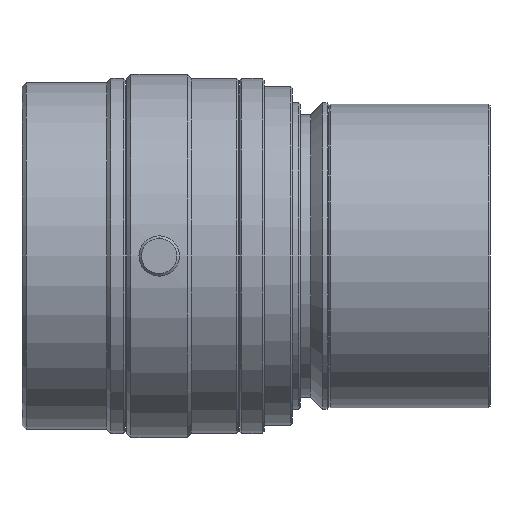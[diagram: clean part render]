
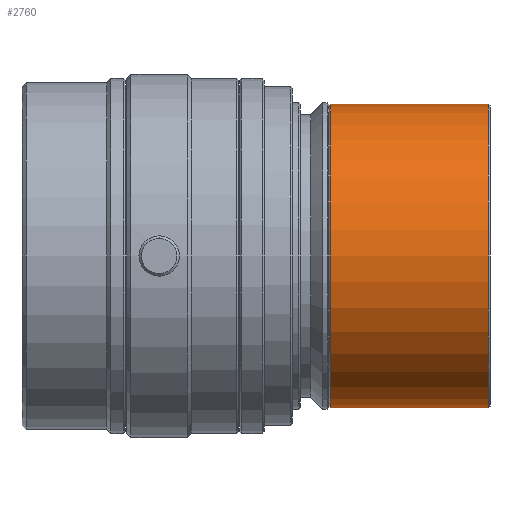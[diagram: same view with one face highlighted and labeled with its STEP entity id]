
A CAD part, front view. The second image highlights one B-rep face of the part: STEP entity #2760.
In plain terms, the highlighted cylindrical face has radius 18.8 mm (diameter 37.6 mm), a partial arc.
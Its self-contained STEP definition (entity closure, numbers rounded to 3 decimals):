
#85 = CARTESIAN_POINT ( 'NONE',  ( 57.918, 0., 18.8 ) ) ;
#186 = DIRECTION ( 'NONE',  ( 0., 0., 1. ) ) ;
#195 = EDGE_CURVE ( 'NONE', #414, #3001, #1990, .T. ) ;
#214 = CARTESIAN_POINT ( 'NONE',  ( 57.918, 0., -18.8 ) ) ;
#216 = VERTEX_POINT ( 'NONE', #234 ) ;
#223 = CYLINDRICAL_SURFACE ( 'NONE', #856, 18.8 ) ;
#234 = CARTESIAN_POINT ( 'NONE',  ( 38.318, 0., 18.8 ) ) ;
#315 = DIRECTION ( 'NONE',  ( -1., 0., 0. ) ) ;
#331 = DIRECTION ( 'NONE',  ( -1., 0., 0. ) ) ;
#414 = VERTEX_POINT ( 'NONE', #214 ) ;
#427 = CARTESIAN_POINT ( 'NONE',  ( 38.318, 0., 0. ) ) ;
#448 = FACE_OUTER_BOUND ( 'NONE', #1833, .T. ) ;
#630 = AXIS2_PLACEMENT_3D ( 'NONE', #993, #2513, #744 ) ;
#663 = EDGE_CURVE ( 'NONE', #414, #717, #2405, .T. ) ;
#717 = VERTEX_POINT ( 'NONE', #2849 ) ;
#744 = DIRECTION ( 'NONE',  ( 0., 0., 1. ) ) ;
#848 = LINE ( 'NONE', #2098, #2770 ) ;
#856 = AXIS2_PLACEMENT_3D ( 'NONE', #1745, #1993, #2978 ) ;
#993 = CARTESIAN_POINT ( 'NONE',  ( 57.918, 0., 0. ) ) ;
#1356 = ORIENTED_EDGE ( 'NONE', *, *, #1883, .F. ) ;
#1578 = ORIENTED_EDGE ( 'NONE', *, *, #663, .F. ) ;
#1596 = AXIS2_PLACEMENT_3D ( 'NONE', #427, #1944, #186 ) ;
#1656 = ORIENTED_EDGE ( 'NONE', *, *, #195, .T. ) ;
#1745 = CARTESIAN_POINT ( 'NONE',  ( 2.301, 0., 0. ) ) ;
#1833 = EDGE_LOOP ( 'NONE', ( #1578, #1656, #2545, #1356 ) ) ;
#1883 = EDGE_CURVE ( 'NONE', #717, #216, #2858, .T. ) ;
#1944 = DIRECTION ( 'NONE',  ( -1., 0., 0. ) ) ;
#1990 = CIRCLE ( 'NONE', #630, 18.8 ) ;
#1993 = DIRECTION ( 'NONE',  ( -1., 0., 0. ) ) ;
#2098 = CARTESIAN_POINT ( 'NONE',  ( 2.301, 0., 18.8 ) ) ;
#2405 = LINE ( 'NONE', #2816, #2980 ) ;
#2513 = DIRECTION ( 'NONE',  ( -1., 0., 0. ) ) ;
#2545 = ORIENTED_EDGE ( 'NONE', *, *, #3025, .T. ) ;
#2760 = ADVANCED_FACE ( 'NONE', ( #448 ), #223, .T. ) ;
#2770 = VECTOR ( 'NONE', #331, 1000. ) ;
#2816 = CARTESIAN_POINT ( 'NONE',  ( 2.301, 0., -18.8 ) ) ;
#2849 = CARTESIAN_POINT ( 'NONE',  ( 38.318, 0., -18.8 ) ) ;
#2858 = CIRCLE ( 'NONE', #1596, 18.8 ) ;
#2978 = DIRECTION ( 'NONE',  ( 0., 0., 1. ) ) ;
#2980 = VECTOR ( 'NONE', #315, 1000. ) ;
#3001 = VERTEX_POINT ( 'NONE', #85 ) ;
#3025 = EDGE_CURVE ( 'NONE', #3001, #216, #848, .T. ) ;
